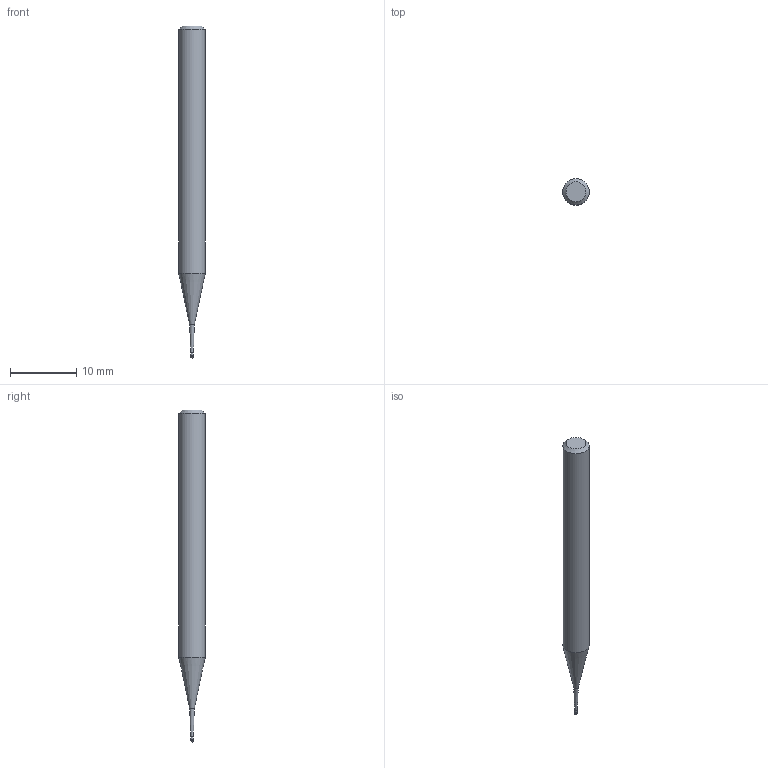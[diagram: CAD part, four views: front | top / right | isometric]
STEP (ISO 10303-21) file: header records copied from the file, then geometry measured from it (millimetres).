
FILE_DESCRIPTION((''),'2;1');
FILE_NAME('C:\Users\nsx150\AppData\Local\Temp\Mastercam 2021\SNAKH10GOD\TEMP.step','2021-10-21T13:31:02',(''),(''),'STEP Write','Mastercam 2021 ... CNC Software, Inc.','');
FILE_SCHEMA(('AUTOMOTIVE_DESIGN'));
Length unit declared in the file: millimetre
Products named in the file (1): None
Bounding box: 4 x 4 x 50 mm (x, y, z)
Volume: 506.5 mm3; surface area: 543.3 mm2
Topology: 2 solids, 2 shells, 10 faces, 16 edges, 9 vertices
Faces by surface type: plane 3, cylinder 3, cone 3, sphere 1
Full cylindrical faces by diameter (mm): 0.395 x1, 0.4 x1, 4 x1
Entity records: 232 total; most frequent: DIRECTION 40, CARTESIAN_POINT 28, AXIS2_PLACEMENT_3D 20, ORIENTED_EDGE 16, EDGE_LOOP 16, STYLED_ITEM 13, ADVANCED_FACE 10, FACE_BOUND 9
